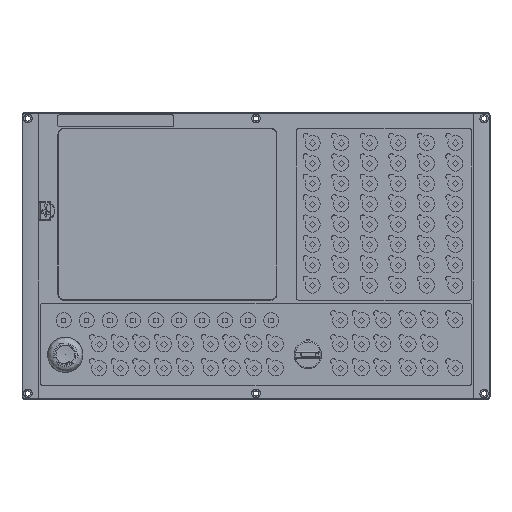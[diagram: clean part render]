
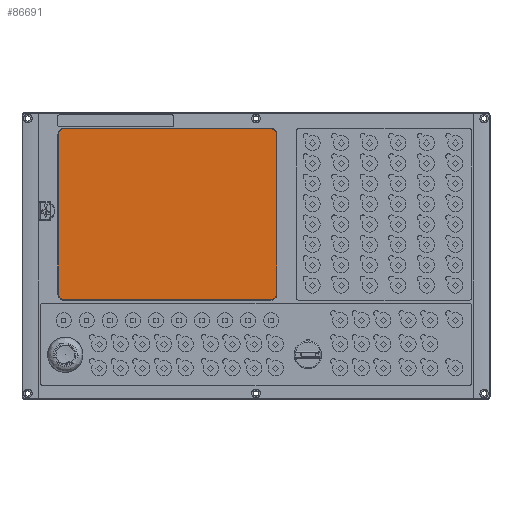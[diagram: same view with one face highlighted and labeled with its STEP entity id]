
A CAD part, top view. The second image highlights one B-rep face of the part: STEP entity #86691.
In plain terms, the highlighted planar face has unit normal (0, 0, 1).
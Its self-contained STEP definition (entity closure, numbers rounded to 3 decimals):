
#4045 = CARTESIAN_POINT ( 'NONE',  ( 123.048, 120.22, 413.42 ) ) ;
#5258 = DIRECTION ( 'NONE',  ( -1., 0., 0. ) ) ;
#9721 = CARTESIAN_POINT ( 'NONE',  ( -53.952, -25.88, 413.42 ) ) ;
#10160 = VECTOR ( 'NONE', #5258, 1000. ) ;
#10461 = VERTEX_POINT ( 'NONE', #80956 ) ;
#10908 = VERTEX_POINT ( 'NONE', #35258 ) ;
#11287 = DIRECTION ( 'NONE',  ( 1., 0., 0. ) ) ;
#11885 = VERTEX_POINT ( 'NONE', #34588 ) ;
#22919 = CIRCLE ( 'NONE', #35429, 4.8 ) ;
#23241 = ORIENTED_EDGE ( 'NONE', *, *, #72152, .T. ) ;
#25091 = VERTEX_POINT ( 'NONE', #87965 ) ;
#27686 = DIRECTION ( 'NONE',  ( 0., -1., 0. ) ) ;
#27852 = ORIENTED_EDGE ( 'NONE', *, *, #47681, .T. ) ;
#34162 = ORIENTED_EDGE ( 'NONE', *, *, #55984, .T. ) ;
#34171 = DIRECTION ( 'NONE',  ( 0., 0., 1. ) ) ;
#34588 = CARTESIAN_POINT ( 'NONE',  ( -53.952, -25.88, 413.42 ) ) ;
#35258 = CARTESIAN_POINT ( 'NONE',  ( 127.848, -21.08, 413.42 ) ) ;
#35429 = AXIS2_PLACEMENT_3D ( 'NONE', #105314, #77387, #114720 ) ;
#37272 = CARTESIAN_POINT ( 'NONE',  ( -58.752, -21.08, 413.42 ) ) ;
#40317 = CARTESIAN_POINT ( 'NONE',  ( 123.048, -21.08, 413.42 ) ) ;
#44509 = EDGE_CURVE ( 'NONE', #11885, #99904, #83356, .T. ) ;
#47269 = CIRCLE ( 'NONE', #70104, 4.8 ) ;
#47681 = EDGE_CURVE ( 'NONE', #25091, #10461, #117997, .T. ) ;
#48425 = VECTOR ( 'NONE', #27686, 1000. ) ;
#48888 = CARTESIAN_POINT ( 'NONE',  ( 127.848, 115.42, 413.42 ) ) ;
#49722 = DIRECTION ( 'NONE',  ( 1., 0., 0. ) ) ;
#51438 = LINE ( 'NONE', #111683, #48425 ) ;
#54457 = EDGE_LOOP ( 'NONE', ( #27852, #112870, #23241, #112055, #89762, #63533, #115429, #34162 ) ) ;
#55516 = CARTESIAN_POINT ( 'NONE',  ( 123.048, -25.88, 413.42 ) ) ;
#55984 = EDGE_CURVE ( 'NONE', #67883, #25091, #84863, .T. ) ;
#57438 = PLANE ( 'NONE',  #114363 ) ;
#58403 = VECTOR ( 'NONE', #113348, 1000. ) ;
#63321 = EDGE_CURVE ( 'NONE', #10461, #114523, #51438, .T. ) ;
#63533 = ORIENTED_EDGE ( 'NONE', *, *, #67799, .T. ) ;
#67799 = EDGE_CURVE ( 'NONE', #10908, #98770, #114676, .T. ) ;
#67883 = VERTEX_POINT ( 'NONE', #90117 ) ;
#69232 = DIRECTION ( 'NONE',  ( 0., 1., 0. ) ) ;
#70104 = AXIS2_PLACEMENT_3D ( 'NONE', #40317, #105902, #49722 ) ;
#70416 = CARTESIAN_POINT ( 'NONE',  ( 127.848, -21.08, 413.42 ) ) ;
#72152 = EDGE_CURVE ( 'NONE', #114523, #11885, #22919, .T. ) ;
#76314 = CARTESIAN_POINT ( 'NONE',  ( -53.952, 115.42, 413.42 ) ) ;
#77387 = DIRECTION ( 'NONE',  ( 0., 0., 1. ) ) ;
#80956 = CARTESIAN_POINT ( 'NONE',  ( -58.752, 115.42, 413.42 ) ) ;
#81426 = CARTESIAN_POINT ( 'NONE',  ( -53.952, 115.42, 413.42 ) ) ;
#81645 = AXIS2_PLACEMENT_3D ( 'NONE', #81426, #82613, #111293 ) ;
#82613 = DIRECTION ( 'NONE',  ( 0., 0., 1. ) ) ;
#83356 = LINE ( 'NONE', #9721, #58403 ) ;
#84863 = LINE ( 'NONE', #4045, #10160 ) ;
#84887 = EDGE_CURVE ( 'NONE', #99904, #10908, #47269, .T. ) ;
#85782 = DIRECTION ( 'NONE',  ( 0., 0., 1. ) ) ;
#86691 = ADVANCED_FACE ( 'NONE', ( #95320 ), #57438, .T. ) ;
#87965 = CARTESIAN_POINT ( 'NONE',  ( -53.952, 120.22, 413.42 ) ) ;
#89762 = ORIENTED_EDGE ( 'NONE', *, *, #84887, .T. ) ;
#90117 = CARTESIAN_POINT ( 'NONE',  ( 123.048, 120.22, 413.42 ) ) ;
#95320 = FACE_OUTER_BOUND ( 'NONE', #54457, .T. ) ;
#95597 = VECTOR ( 'NONE', #69232, 1000. ) ;
#98770 = VERTEX_POINT ( 'NONE', #48888 ) ;
#99764 = CARTESIAN_POINT ( 'NONE',  ( 123.048, 115.42, 413.42 ) ) ;
#99904 = VERTEX_POINT ( 'NONE', #55516 ) ;
#100880 = CIRCLE ( 'NONE', #108563, 4.8 ) ;
#105314 = CARTESIAN_POINT ( 'NONE',  ( -53.952, -21.08, 413.42 ) ) ;
#105902 = DIRECTION ( 'NONE',  ( 0., 0., 1. ) ) ;
#108563 = AXIS2_PLACEMENT_3D ( 'NONE', #99764, #34171, #109199 ) ;
#109199 = DIRECTION ( 'NONE',  ( 1., 0., 0. ) ) ;
#111293 = DIRECTION ( 'NONE',  ( 1., 0., 0. ) ) ;
#111683 = CARTESIAN_POINT ( 'NONE',  ( -58.752, 115.42, 413.42 ) ) ;
#112055 = ORIENTED_EDGE ( 'NONE', *, *, #44509, .T. ) ;
#112870 = ORIENTED_EDGE ( 'NONE', *, *, #63321, .T. ) ;
#113348 = DIRECTION ( 'NONE',  ( 1., 0., 0. ) ) ;
#114144 = EDGE_CURVE ( 'NONE', #98770, #67883, #100880, .T. ) ;
#114363 = AXIS2_PLACEMENT_3D ( 'NONE', #76314, #85782, #11287 ) ;
#114523 = VERTEX_POINT ( 'NONE', #37272 ) ;
#114676 = LINE ( 'NONE', #70416, #95597 ) ;
#114720 = DIRECTION ( 'NONE',  ( 1., 0., 0. ) ) ;
#115429 = ORIENTED_EDGE ( 'NONE', *, *, #114144, .T. ) ;
#117997 = CIRCLE ( 'NONE', #81645, 4.8 ) ;
